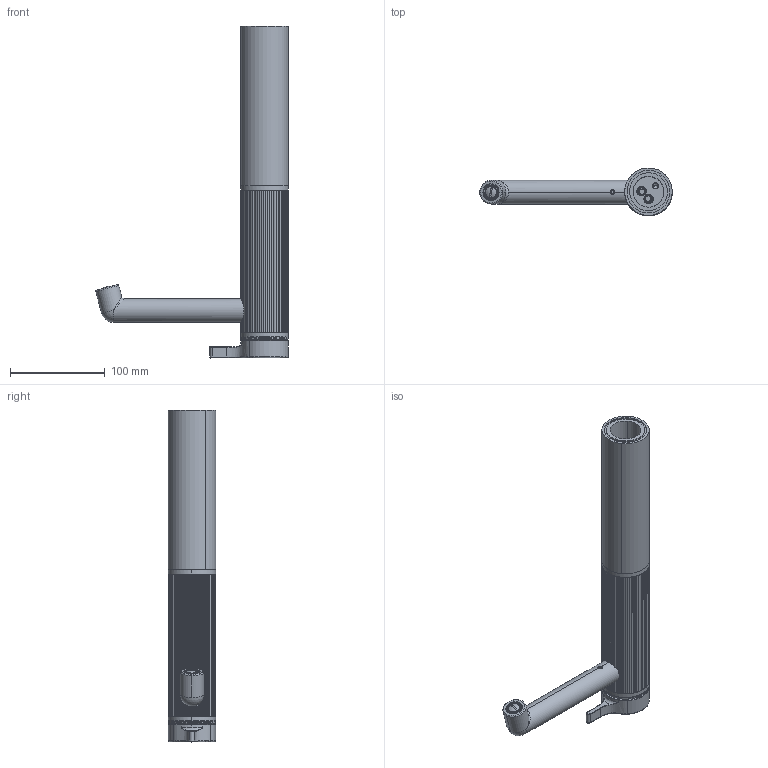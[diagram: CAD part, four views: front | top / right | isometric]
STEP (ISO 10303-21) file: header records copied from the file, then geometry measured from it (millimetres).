
FILE_DESCRIPTION (( 'STEP AP203' ), '1' );
FILE_NAME ('DGE3.STEP', '2023-12-21T15:34:08', ( '' ), ( '' ), 'SwSTEP 2.0', 'SolidWorks 2023', '' );
FILE_SCHEMA (( 'CONFIG_CONTROL_DESIGN' ));
Length unit declared in the file: millimetre
Products named in the file (19): C24.2684.00; C24.1861.00.1; C12.00.0007; C10.00.0032; C24.2687.00; K-25OP-1; C11.14.0003; DGE3; C24.2685.00; C11.14.0019; K-25OP-2; C24.2689.00; K-25OP-3; C47.00.0023.01; C12.00.0028; C25.2384.00.0; C24.2682.00; C13.00.0043; C24.2683.00
Assembly tree (21 placements, depth 3):
  DGE3
    C24.2684.00
    C24.2689.00
    C24.2683.00
    C47.00.0023.01
    C24.2682.00
    C10.00.0032
      K-25OP-1
      K-25OP-2
      K-25OP-3
    C24.1861.00.1
    C24.2685.00
    C12.00.0028  x2
    C11.14.0003
    C11.14.0019  x2
    C24.2687.00
    C12.00.0007  x2
    C25.2384.00.0
    C13.00.0043
Bounding box: 202.87 x 50 x 349.9 mm (x, y, z)
Volume: 486601.2 mm3; surface area: 154019.7 mm2
Topology: 20 solids, 20 shells, 1423 faces, 3564 edges, 2244 vertices
Faces by surface type: cylinder 700, plane 462, torus 97, cone 83, bspline 77, sphere 4
Entity records: 57491 total; most frequent: CARTESIAN_POINT 22416, DIRECTION 7313, ORIENTED_EDGE 6928, EDGE_CURVE 3464, AXIS2_PLACEMENT_3D 3059, VERTEX_POINT 2190, CIRCLE 1733, EDGE_LOOP 1478
